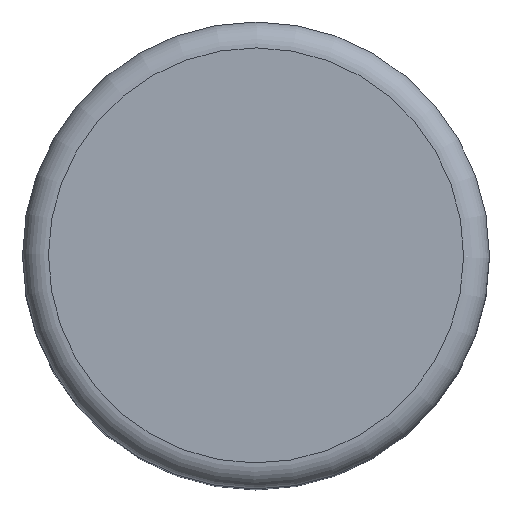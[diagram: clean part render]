
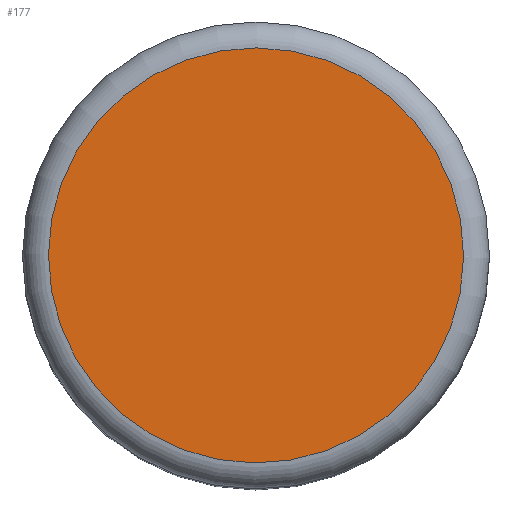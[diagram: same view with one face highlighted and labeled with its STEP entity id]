
A CAD part, top view. The second image highlights one B-rep face of the part: STEP entity #177.
In plain terms, the highlighted planar face has unit normal (0, 0, 1).
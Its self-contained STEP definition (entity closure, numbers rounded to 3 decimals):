
#30=FACE_OUTER_BOUND('',#40,.T.);
#40=EDGE_LOOP('',(#114,#115));
#52=CIRCLE('',#208,8.);
#53=CIRCLE('',#209,8.);
#72=VERTEX_POINT('',#305);
#73=VERTEX_POINT('',#306);
#90=EDGE_CURVE('',#72,#73,#52,.T.);
#91=EDGE_CURVE('',#73,#72,#53,.T.);
#114=ORIENTED_EDGE('',*,*,#90,.T.);
#115=ORIENTED_EDGE('',*,*,#91,.T.);
#162=PLANE('',#207);
#177=ADVANCED_FACE('',(#30),#162,.T.);
#207=AXIS2_PLACEMENT_3D('',#304,#239,#240);
#208=AXIS2_PLACEMENT_3D('',#307,#241,#242);
#209=AXIS2_PLACEMENT_3D('',#308,#243,#244);
#239=DIRECTION('center_axis',(0.,0.,1.));
#240=DIRECTION('ref_axis',(1.,0.,0.));
#241=DIRECTION('center_axis',(0.,0.,1.));
#242=DIRECTION('ref_axis',(-1.,0.,0.));
#243=DIRECTION('center_axis',(0.,0.,1.));
#244=DIRECTION('ref_axis',(-1.,0.,0.));
#304=CARTESIAN_POINT('Origin',(0.,0.,0.));
#305=CARTESIAN_POINT('',(8.,0.,0.));
#306=CARTESIAN_POINT('',(8.,-0.077,0.));
#307=CARTESIAN_POINT('Origin',(0.,0.,0.));
#308=CARTESIAN_POINT('Origin',(0.,0.,0.));
